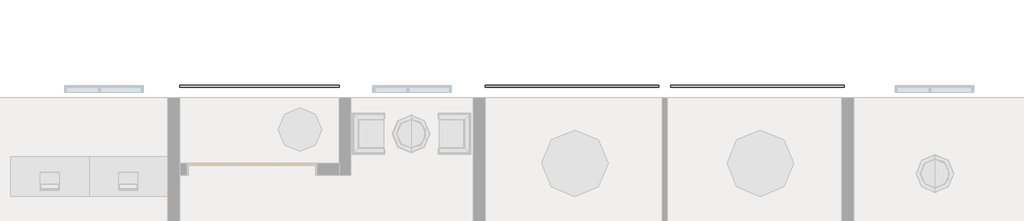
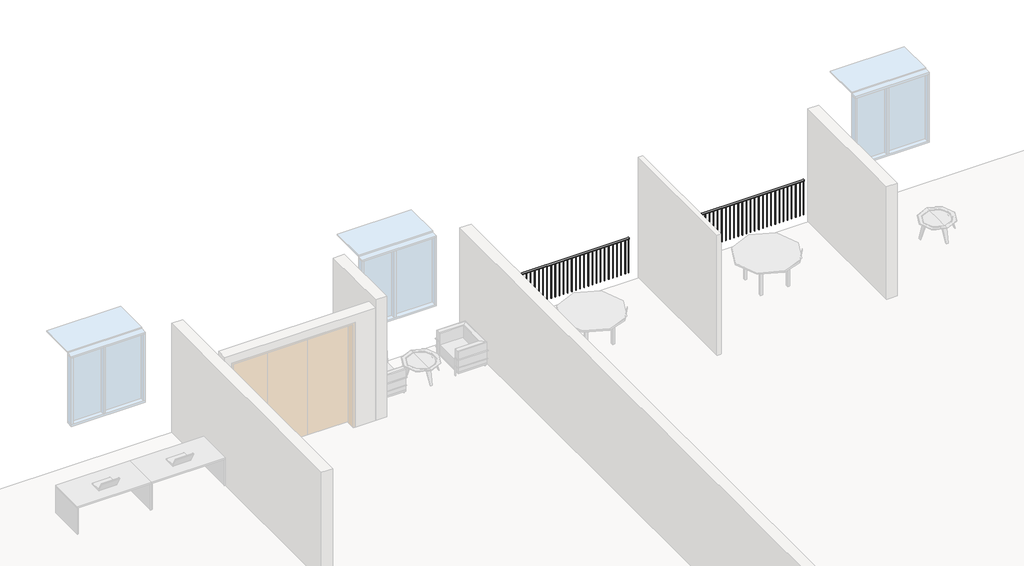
# One storey, part 3 of 5: 3 railings.
"""IFC4 building model written with IfcOpenShell, lengths in millimetres."""

from ifc_helpers import new_model, si_unit, point, frame, frame_2d, origin, place, context, project, spatial, polyline, circle_curve, trimmed, segment, composite_curve, outline, extrude, element, save

model = new_model("IFC4")

# Units and contexts
model_context = context("Model", 3, world=origin())
ifc_project = project(units=[si_unit("LENGTHUNIT", "METRE", prefix="MILLI")], contexts=[model_context])

# Site, building, storey
site = spatial("IfcSite", under=ifc_project)
building = spatial("IfcBuilding", under=site)
storey = spatial("IfcBuildingStorey", under=building, Name="2階", Elevation=33000.0)

# Railings
placement = place(None, origin())
element("IfcRailing", 1, ObjectType="900mm", at=placement, inside=storey, context=model_context, shape_type="SweptSolid", body=[
    extrude(outline(composite_curve([segment(trimmed(circle_curve(frame_2d((18700.0, 33880.0)), 20.0), [point((18680.0, 33880.0))], [point((18720.0, 33880.0))], False, "CARTESIAN"), True, "CONTINUOUS"), segment(trimmed(circle_curve(frame_2d((18700.0, 33880.0)), 20.0), [point((18720.0, 33880.0))], [point((18680.0, 33880.0))], False, "CARTESIAN"), True, "CONTINUOUS")], self_intersect=False)), frame((20364.6062665, 0.0, 0.0), z_axis=(1.0, 0.0, 0.0), x_axis=(0.0, 1.0, 0.0)), (0.0, 0.0, 1.0), 3988.7971578),
    extrude(outline(polyline([(24259.6062665, 18695.0), (24259.6062665, 18705.0), (24269.6062665, 18705.0), (24269.6062665, 18695.0), (24259.6062665, 18695.0)])), frame((0.0, 0.0, 33000.0), z_axis=(0.0, 0.0, 1.0), x_axis=(1.0, 0.0, 0.0)), (0.0, 0.0, 1.0), 860.0),
    extrude(outline(polyline([(24159.6062665, 18695.0), (24159.6062665, 18705.0), (24169.6062665, 18705.0), (24169.6062665, 18695.0), (24159.6062665, 18695.0)])), frame((0.0, 0.0, 33000.0), z_axis=(0.0, 0.0, 1.0), x_axis=(1.0, 0.0, 0.0)), (0.0, 0.0, 1.0), 860.0),
    extrude(outline(polyline([(24059.6062665, 18695.0), (24059.6062665, 18705.0), (24069.6062665, 18705.0), (24069.6062665, 18695.0), (24059.6062665, 18695.0)])), frame((0.0, 0.0, 33000.0), z_axis=(0.0, 0.0, 1.0), x_axis=(1.0, 0.0, 0.0)), (0.0, 0.0, 1.0), 860.0),
    extrude(outline(polyline([(23959.6062665, 18695.0), (23959.6062665, 18705.0), (23969.6062665, 18705.0), (23969.6062665, 18695.0), (23959.6062665, 18695.0)])), frame((0.0, 0.0, 33000.0), z_axis=(0.0, 0.0, 1.0), x_axis=(1.0, 0.0, 0.0)), (0.0, 0.0, 1.0), 860.0),
    extrude(outline(polyline([(23859.6062665, 18695.0), (23859.6062665, 18705.0), (23869.6062665, 18705.0), (23869.6062665, 18695.0), (23859.6062665, 18695.0)])), frame((0.0, 0.0, 33000.0), z_axis=(0.0, 0.0, 1.0), x_axis=(1.0, 0.0, 0.0)), (0.0, 0.0, 1.0), 860.0),
    extrude(outline(polyline([(23759.6062665, 18695.0), (23759.6062665, 18705.0), (23769.6062665, 18705.0), (23769.6062665, 18695.0), (23759.6062665, 18695.0)])), frame((0.0, 0.0, 33000.0), z_axis=(0.0, 0.0, 1.0), x_axis=(1.0, 0.0, 0.0)), (0.0, 0.0, 1.0), 860.0),
    extrude(outline(polyline([(23659.6062665, 18695.0), (23659.6062665, 18705.0), (23669.6062665, 18705.0), (23669.6062665, 18695.0), (23659.6062665, 18695.0)])), frame((0.0, 0.0, 33000.0), z_axis=(0.0, 0.0, 1.0), x_axis=(1.0, 0.0, 0.0)), (0.0, 0.0, 1.0), 860.0),
    extrude(outline(polyline([(23559.6062665, 18695.0), (23559.6062665, 18705.0), (23569.6062665, 18705.0), (23569.6062665, 18695.0), (23559.6062665, 18695.0)])), frame((0.0, 0.0, 33000.0), z_axis=(0.0, 0.0, 1.0), x_axis=(1.0, 0.0, 0.0)), (0.0, 0.0, 1.0), 860.0),
    extrude(outline(polyline([(23459.6062665, 18695.0), (23459.6062665, 18705.0), (23469.6062665, 18705.0), (23469.6062665, 18695.0), (23459.6062665, 18695.0)])), frame((0.0, 0.0, 33000.0), z_axis=(0.0, 0.0, 1.0), x_axis=(1.0, 0.0, 0.0)), (0.0, 0.0, 1.0), 860.0),
    extrude(outline(polyline([(23359.6062665, 18695.0), (23359.6062665, 18705.0), (23369.6062665, 18705.0), (23369.6062665, 18695.0), (23359.6062665, 18695.0)])), frame((0.0, 0.0, 33000.0), z_axis=(0.0, 0.0, 1.0), x_axis=(1.0, 0.0, 0.0)), (0.0, 0.0, 1.0), 860.0),
    extrude(outline(polyline([(23259.6062665, 18695.0), (23259.6062665, 18705.0), (23269.6062665, 18705.0), (23269.6062665, 18695.0), (23259.6062665, 18695.0)])), frame((0.0, 0.0, 33000.0), z_axis=(0.0, 0.0, 1.0), x_axis=(1.0, 0.0, 0.0)), (0.0, 0.0, 1.0), 860.0),
    extrude(outline(polyline([(23159.6062665, 18695.0), (23159.6062665, 18705.0), (23169.6062665, 18705.0), (23169.6062665, 18695.0), (23159.6062665, 18695.0)])), frame((0.0, 0.0, 33000.0), z_axis=(0.0, 0.0, 1.0), x_axis=(1.0, 0.0, 0.0)), (0.0, 0.0, 1.0), 860.0),
    extrude(outline(polyline([(23059.6062665, 18695.0), (23059.6062665, 18705.0), (23069.6062665, 18705.0), (23069.6062665, 18695.0), (23059.6062665, 18695.0)])), frame((0.0, 0.0, 33000.0), z_axis=(0.0, 0.0, 1.0), x_axis=(1.0, 0.0, 0.0)), (0.0, 0.0, 1.0), 860.0),
    extrude(outline(polyline([(22959.6062665, 18695.0), (22959.6062665, 18705.0), (22969.6062665, 18705.0), (22969.6062665, 18695.0), (22959.6062665, 18695.0)])), frame((0.0, 0.0, 33000.0), z_axis=(0.0, 0.0, 1.0), x_axis=(1.0, 0.0, 0.0)), (0.0, 0.0, 1.0), 860.0),
    extrude(outline(polyline([(22859.6062665, 18695.0), (22859.6062665, 18705.0), (22869.6062665, 18705.0), (22869.6062665, 18695.0), (22859.6062665, 18695.0)])), frame((0.0, 0.0, 33000.0), z_axis=(0.0, 0.0, 1.0), x_axis=(1.0, 0.0, 0.0)), (0.0, 0.0, 1.0), 860.0),
    extrude(outline(polyline([(22759.6062665, 18695.0), (22759.6062665, 18705.0), (22769.6062665, 18705.0), (22769.6062665, 18695.0), (22759.6062665, 18695.0)])), frame((0.0, 0.0, 33000.0), z_axis=(0.0, 0.0, 1.0), x_axis=(1.0, 0.0, 0.0)), (0.0, 0.0, 1.0), 860.0),
    extrude(outline(polyline([(22659.6062665, 18695.0), (22659.6062665, 18705.0), (22669.6062665, 18705.0), (22669.6062665, 18695.0), (22659.6062665, 18695.0)])), frame((0.0, 0.0, 33000.0), z_axis=(0.0, 0.0, 1.0), x_axis=(1.0, 0.0, 0.0)), (0.0, 0.0, 1.0), 860.0),
    extrude(outline(polyline([(22559.6062665, 18695.0), (22559.6062665, 18705.0), (22569.6062665, 18705.0), (22569.6062665, 18695.0), (22559.6062665, 18695.0)])), frame((0.0, 0.0, 33000.0), z_axis=(0.0, 0.0, 1.0), x_axis=(1.0, 0.0, 0.0)), (0.0, 0.0, 1.0), 860.0),
    extrude(outline(polyline([(22459.6062665, 18695.0), (22459.6062665, 18705.0), (22469.6062665, 18705.0), (22469.6062665, 18695.0), (22459.6062665, 18695.0)])), frame((0.0, 0.0, 33000.0), z_axis=(0.0, 0.0, 1.0), x_axis=(1.0, 0.0, 0.0)), (0.0, 0.0, 1.0), 860.0),
    extrude(outline(polyline([(22359.6062665, 18695.0), (22359.6062665, 18705.0), (22369.6062665, 18705.0), (22369.6062665, 18695.0), (22359.6062665, 18695.0)])), frame((0.0, 0.0, 33000.0), z_axis=(0.0, 0.0, 1.0), x_axis=(1.0, 0.0, 0.0)), (0.0, 0.0, 1.0), 860.0),
    extrude(outline(polyline([(22259.6062665, 18695.0), (22259.6062665, 18705.0), (22269.6062665, 18705.0), (22269.6062665, 18695.0), (22259.6062665, 18695.0)])), frame((0.0, 0.0, 33000.0), z_axis=(0.0, 0.0, 1.0), x_axis=(1.0, 0.0, 0.0)), (0.0, 0.0, 1.0), 860.0),
    extrude(outline(polyline([(22159.6062665, 18695.0), (22159.6062665, 18705.0), (22169.6062665, 18705.0), (22169.6062665, 18695.0), (22159.6062665, 18695.0)])), frame((0.0, 0.0, 33000.0), z_axis=(0.0, 0.0, 1.0), x_axis=(1.0, 0.0, 0.0)), (0.0, 0.0, 1.0), 860.0),
    extrude(outline(polyline([(22059.6062665, 18695.0), (22059.6062665, 18705.0), (22069.6062665, 18705.0), (22069.6062665, 18695.0), (22059.6062665, 18695.0)])), frame((0.0, 0.0, 33000.0), z_axis=(0.0, 0.0, 1.0), x_axis=(1.0, 0.0, 0.0)), (0.0, 0.0, 1.0), 860.0),
    extrude(outline(polyline([(21959.6062665, 18695.0), (21959.6062665, 18705.0), (21969.6062665, 18705.0), (21969.6062665, 18695.0), (21959.6062665, 18695.0)])), frame((0.0, 0.0, 33000.0), z_axis=(0.0, 0.0, 1.0), x_axis=(1.0, 0.0, 0.0)), (0.0, 0.0, 1.0), 860.0),
    extrude(outline(polyline([(21859.6062665, 18695.0), (21859.6062665, 18705.0), (21869.6062665, 18705.0), (21869.6062665, 18695.0), (21859.6062665, 18695.0)])), frame((0.0, 0.0, 33000.0), z_axis=(0.0, 0.0, 1.0), x_axis=(1.0, 0.0, 0.0)), (0.0, 0.0, 1.0), 860.0),
    extrude(outline(polyline([(21759.6062665, 18695.0), (21759.6062665, 18705.0), (21769.6062665, 18705.0), (21769.6062665, 18695.0), (21759.6062665, 18695.0)])), frame((0.0, 0.0, 33000.0), z_axis=(0.0, 0.0, 1.0), x_axis=(1.0, 0.0, 0.0)), (0.0, 0.0, 1.0), 860.0),
    extrude(outline(polyline([(21659.6062665, 18695.0), (21659.6062665, 18705.0), (21669.6062665, 18705.0), (21669.6062665, 18695.0), (21659.6062665, 18695.0)])), frame((0.0, 0.0, 33000.0), z_axis=(0.0, 0.0, 1.0), x_axis=(1.0, 0.0, 0.0)), (0.0, 0.0, 1.0), 860.0),
    extrude(outline(polyline([(21559.6062665, 18695.0), (21559.6062665, 18705.0), (21569.6062665, 18705.0), (21569.6062665, 18695.0), (21559.6062665, 18695.0)])), frame((0.0, 0.0, 33000.0), z_axis=(0.0, 0.0, 1.0), x_axis=(1.0, 0.0, 0.0)), (0.0, 0.0, 1.0), 860.0),
    extrude(outline(polyline([(21459.6062665, 18695.0), (21459.6062665, 18705.0), (21469.6062665, 18705.0), (21469.6062665, 18695.0), (21459.6062665, 18695.0)])), frame((0.0, 0.0, 33000.0), z_axis=(0.0, 0.0, 1.0), x_axis=(1.0, 0.0, 0.0)), (0.0, 0.0, 1.0), 860.0),
    extrude(outline(polyline([(21359.6062665, 18695.0), (21359.6062665, 18705.0), (21369.6062665, 18705.0), (21369.6062665, 18695.0), (21359.6062665, 18695.0)])), frame((0.0, 0.0, 33000.0), z_axis=(0.0, 0.0, 1.0), x_axis=(1.0, 0.0, 0.0)), (0.0, 0.0, 1.0), 860.0),
    extrude(outline(polyline([(21259.6062665, 18695.0), (21259.6062665, 18705.0), (21269.6062665, 18705.0), (21269.6062665, 18695.0), (21259.6062665, 18695.0)])), frame((0.0, 0.0, 33000.0), z_axis=(0.0, 0.0, 1.0), x_axis=(1.0, 0.0, 0.0)), (0.0, 0.0, 1.0), 860.0),
    extrude(outline(polyline([(21159.6062665, 18695.0), (21159.6062665, 18705.0), (21169.6062665, 18705.0), (21169.6062665, 18695.0), (21159.6062665, 18695.0)])), frame((0.0, 0.0, 33000.0), z_axis=(0.0, 0.0, 1.0), x_axis=(1.0, 0.0, 0.0)), (0.0, 0.0, 1.0), 860.0),
    extrude(outline(polyline([(21059.6062665, 18695.0), (21059.6062665, 18705.0), (21069.6062665, 18705.0), (21069.6062665, 18695.0), (21059.6062665, 18695.0)])), frame((0.0, 0.0, 33000.0), z_axis=(0.0, 0.0, 1.0), x_axis=(1.0, 0.0, 0.0)), (0.0, 0.0, 1.0), 860.0),
    extrude(outline(polyline([(20959.6062665, 18695.0), (20959.6062665, 18705.0), (20969.6062665, 18705.0), (20969.6062665, 18695.0), (20959.6062665, 18695.0)])), frame((0.0, 0.0, 33000.0), z_axis=(0.0, 0.0, 1.0), x_axis=(1.0, 0.0, 0.0)), (0.0, 0.0, 1.0), 860.0),
    extrude(outline(polyline([(20859.6062665, 18695.0), (20859.6062665, 18705.0), (20869.6062665, 18705.0), (20869.6062665, 18695.0), (20859.6062665, 18695.0)])), frame((0.0, 0.0, 33000.0), z_axis=(0.0, 0.0, 1.0), x_axis=(1.0, 0.0, 0.0)), (0.0, 0.0, 1.0), 860.0),
    extrude(outline(polyline([(20759.6062665, 18695.0), (20759.6062665, 18705.0), (20769.6062665, 18705.0), (20769.6062665, 18695.0), (20759.6062665, 18695.0)])), frame((0.0, 0.0, 33000.0), z_axis=(0.0, 0.0, 1.0), x_axis=(1.0, 0.0, 0.0)), (0.0, 0.0, 1.0), 860.0),
    extrude(outline(polyline([(20659.6062665, 18695.0), (20659.6062665, 18705.0), (20669.6062665, 18705.0), (20669.6062665, 18695.0), (20659.6062665, 18695.0)])), frame((0.0, 0.0, 33000.0), z_axis=(0.0, 0.0, 1.0), x_axis=(1.0, 0.0, 0.0)), (0.0, 0.0, 1.0), 860.0),
    extrude(outline(polyline([(20559.6062665, 18695.0), (20559.6062665, 18705.0), (20569.6062665, 18705.0), (20569.6062665, 18695.0), (20559.6062665, 18695.0)])), frame((0.0, 0.0, 33000.0), z_axis=(0.0, 0.0, 1.0), x_axis=(1.0, 0.0, 0.0)), (0.0, 0.0, 1.0), 860.0),
    extrude(outline(polyline([(20459.6062665, 18695.0), (20459.6062665, 18705.0), (20469.6062665, 18705.0), (20469.6062665, 18695.0), (20459.6062665, 18695.0)])), frame((0.0, 0.0, 33000.0), z_axis=(0.0, 0.0, 1.0), x_axis=(1.0, 0.0, 0.0)), (0.0, 0.0, 1.0), 860.0),
    extrude(outline(polyline([(24338.4034243, 18695.0), (24338.4034243, 18705.0), (24348.4034243, 18705.0), (24348.4034243, 18695.0), (24338.4034243, 18695.0)])), frame((0.0, 0.0, 33000.0), z_axis=(0.0, 0.0, 1.0), x_axis=(1.0, 0.0, 0.0)), (0.0, 0.0, 1.0), 860.0),
    extrude(outline(polyline([(20369.6062665, 18695.0), (20369.6062665, 18705.0), (20379.6062665, 18705.0), (20379.6062665, 18695.0), (20369.6062665, 18695.0)])), frame((0.0, 0.0, 33000.0), z_axis=(0.0, 0.0, 1.0), x_axis=(1.0, 0.0, 0.0)), (0.0, 0.0, 1.0), 860.0),
])
element("IfcRailing", 2, ObjectType="900mm", at=placement, inside=storey, context=model_context, shape_type="SweptSolid", body=[
    extrude(outline(composite_curve([segment(trimmed(circle_curve(frame_2d((18700.0, 33880.0)), 20.0), [point((18720.0, 33880.0))], [point((18680.0, 33880.0))], False, "CARTESIAN"), True, "CONTINUOUS"), segment(trimmed(circle_curve(frame_2d((18700.0, 33880.0)), 20.0), [point((18680.0, 33880.0))], [point((18720.0, 33880.0))], False, "CARTESIAN"), True, "CONTINUOUS")], self_intersect=False)), frame((24623.4034243, 0.0, 0.0), z_axis=(1.0, 0.0, 0.0), x_axis=(0.0, 1.0, 0.0)), (0.0, 0.0, 1.0), 3988.7971578),
    extrude(outline(polyline([(24717.200582, 18695.0), (24707.200582, 18695.0), (24707.200582, 18705.0), (24717.200582, 18705.0), (24717.200582, 18695.0)])), frame((0.0, 0.0, 33000.0), z_axis=(0.0, 0.0, 1.0), x_axis=(1.0, 0.0, 0.0)), (0.0, 0.0, 1.0), 860.0),
    extrude(outline(polyline([(24817.200582, 18695.0), (24807.200582, 18695.0), (24807.200582, 18705.0), (24817.200582, 18705.0), (24817.200582, 18695.0)])), frame((0.0, 0.0, 33000.0), z_axis=(0.0, 0.0, 1.0), x_axis=(1.0, 0.0, 0.0)), (0.0, 0.0, 1.0), 860.0),
    extrude(outline(polyline([(24917.200582, 18695.0), (24907.200582, 18695.0), (24907.200582, 18705.0), (24917.200582, 18705.0), (24917.200582, 18695.0)])), frame((0.0, 0.0, 33000.0), z_axis=(0.0, 0.0, 1.0), x_axis=(1.0, 0.0, 0.0)), (0.0, 0.0, 1.0), 860.0),
    extrude(outline(polyline([(25017.200582, 18695.0), (25007.200582, 18695.0), (25007.200582, 18705.0), (25017.200582, 18705.0), (25017.200582, 18695.0)])), frame((0.0, 0.0, 33000.0), z_axis=(0.0, 0.0, 1.0), x_axis=(1.0, 0.0, 0.0)), (0.0, 0.0, 1.0), 860.0),
    extrude(outline(polyline([(25117.200582, 18695.0), (25107.200582, 18695.0), (25107.200582, 18705.0), (25117.200582, 18705.0), (25117.200582, 18695.0)])), frame((0.0, 0.0, 33000.0), z_axis=(0.0, 0.0, 1.0), x_axis=(1.0, 0.0, 0.0)), (0.0, 0.0, 1.0), 860.0),
    extrude(outline(polyline([(25217.200582, 18695.0), (25207.200582, 18695.0), (25207.200582, 18705.0), (25217.200582, 18705.0), (25217.200582, 18695.0)])), frame((0.0, 0.0, 33000.0), z_axis=(0.0, 0.0, 1.0), x_axis=(1.0, 0.0, 0.0)), (0.0, 0.0, 1.0), 860.0),
    extrude(outline(polyline([(25317.200582, 18695.0), (25307.200582, 18695.0), (25307.200582, 18705.0), (25317.200582, 18705.0), (25317.200582, 18695.0)])), frame((0.0, 0.0, 33000.0), z_axis=(0.0, 0.0, 1.0), x_axis=(1.0, 0.0, 0.0)), (0.0, 0.0, 1.0), 860.0),
    extrude(outline(polyline([(25417.200582, 18695.0), (25407.200582, 18695.0), (25407.200582, 18705.0), (25417.200582, 18705.0), (25417.200582, 18695.0)])), frame((0.0, 0.0, 33000.0), z_axis=(0.0, 0.0, 1.0), x_axis=(1.0, 0.0, 0.0)), (0.0, 0.0, 1.0), 860.0),
    extrude(outline(polyline([(25517.200582, 18695.0), (25507.200582, 18695.0), (25507.200582, 18705.0), (25517.200582, 18705.0), (25517.200582, 18695.0)])), frame((0.0, 0.0, 33000.0), z_axis=(0.0, 0.0, 1.0), x_axis=(1.0, 0.0, 0.0)), (0.0, 0.0, 1.0), 860.0),
    extrude(outline(polyline([(25617.200582, 18695.0), (25607.200582, 18695.0), (25607.200582, 18705.0), (25617.200582, 18705.0), (25617.200582, 18695.0)])), frame((0.0, 0.0, 33000.0), z_axis=(0.0, 0.0, 1.0), x_axis=(1.0, 0.0, 0.0)), (0.0, 0.0, 1.0), 860.0),
    extrude(outline(polyline([(25717.200582, 18695.0), (25707.200582, 18695.0), (25707.200582, 18705.0), (25717.200582, 18705.0), (25717.200582, 18695.0)])), frame((0.0, 0.0, 33000.0), z_axis=(0.0, 0.0, 1.0), x_axis=(1.0, 0.0, 0.0)), (0.0, 0.0, 1.0), 860.0),
    extrude(outline(polyline([(25817.200582, 18695.0), (25807.200582, 18695.0), (25807.200582, 18705.0), (25817.200582, 18705.0), (25817.200582, 18695.0)])), frame((0.0, 0.0, 33000.0), z_axis=(0.0, 0.0, 1.0), x_axis=(1.0, 0.0, 0.0)), (0.0, 0.0, 1.0), 860.0),
    extrude(outline(polyline([(25917.200582, 18695.0), (25907.200582, 18695.0), (25907.200582, 18705.0), (25917.200582, 18705.0), (25917.200582, 18695.0)])), frame((0.0, 0.0, 33000.0), z_axis=(0.0, 0.0, 1.0), x_axis=(1.0, 0.0, 0.0)), (0.0, 0.0, 1.0), 860.0),
    extrude(outline(polyline([(26017.200582, 18695.0), (26007.200582, 18695.0), (26007.200582, 18705.0), (26017.200582, 18705.0), (26017.200582, 18695.0)])), frame((0.0, 0.0, 33000.0), z_axis=(0.0, 0.0, 1.0), x_axis=(1.0, 0.0, 0.0)), (0.0, 0.0, 1.0), 860.0),
    extrude(outline(polyline([(26117.200582, 18695.0), (26107.200582, 18695.0), (26107.200582, 18705.0), (26117.200582, 18705.0), (26117.200582, 18695.0)])), frame((0.0, 0.0, 33000.0), z_axis=(0.0, 0.0, 1.0), x_axis=(1.0, 0.0, 0.0)), (0.0, 0.0, 1.0), 860.0),
    extrude(outline(polyline([(26217.200582, 18695.0), (26207.200582, 18695.0), (26207.200582, 18705.0), (26217.200582, 18705.0), (26217.200582, 18695.0)])), frame((0.0, 0.0, 33000.0), z_axis=(0.0, 0.0, 1.0), x_axis=(1.0, 0.0, 0.0)), (0.0, 0.0, 1.0), 860.0),
    extrude(outline(polyline([(26317.200582, 18695.0), (26307.200582, 18695.0), (26307.200582, 18705.0), (26317.200582, 18705.0), (26317.200582, 18695.0)])), frame((0.0, 0.0, 33000.0), z_axis=(0.0, 0.0, 1.0), x_axis=(1.0, 0.0, 0.0)), (0.0, 0.0, 1.0), 860.0),
    extrude(outline(polyline([(26417.200582, 18695.0), (26407.200582, 18695.0), (26407.200582, 18705.0), (26417.200582, 18705.0), (26417.200582, 18695.0)])), frame((0.0, 0.0, 33000.0), z_axis=(0.0, 0.0, 1.0), x_axis=(1.0, 0.0, 0.0)), (0.0, 0.0, 1.0), 860.0),
    extrude(outline(polyline([(26517.200582, 18695.0), (26507.200582, 18695.0), (26507.200582, 18705.0), (26517.200582, 18705.0), (26517.200582, 18695.0)])), frame((0.0, 0.0, 33000.0), z_axis=(0.0, 0.0, 1.0), x_axis=(1.0, 0.0, 0.0)), (0.0, 0.0, 1.0), 860.0),
    extrude(outline(polyline([(26617.200582, 18695.0), (26607.200582, 18695.0), (26607.200582, 18705.0), (26617.200582, 18705.0), (26617.200582, 18695.0)])), frame((0.0, 0.0, 33000.0), z_axis=(0.0, 0.0, 1.0), x_axis=(1.0, 0.0, 0.0)), (0.0, 0.0, 1.0), 860.0),
    extrude(outline(polyline([(26717.200582, 18695.0), (26707.200582, 18695.0), (26707.200582, 18705.0), (26717.200582, 18705.0), (26717.200582, 18695.0)])), frame((0.0, 0.0, 33000.0), z_axis=(0.0, 0.0, 1.0), x_axis=(1.0, 0.0, 0.0)), (0.0, 0.0, 1.0), 860.0),
    extrude(outline(polyline([(26817.200582, 18695.0), (26807.200582, 18695.0), (26807.200582, 18705.0), (26817.200582, 18705.0), (26817.200582, 18695.0)])), frame((0.0, 0.0, 33000.0), z_axis=(0.0, 0.0, 1.0), x_axis=(1.0, 0.0, 0.0)), (0.0, 0.0, 1.0), 860.0),
    extrude(outline(polyline([(26917.200582, 18695.0), (26907.200582, 18695.0), (26907.200582, 18705.0), (26917.200582, 18705.0), (26917.200582, 18695.0)])), frame((0.0, 0.0, 33000.0), z_axis=(0.0, 0.0, 1.0), x_axis=(1.0, 0.0, 0.0)), (0.0, 0.0, 1.0), 860.0),
    extrude(outline(polyline([(27017.200582, 18695.0), (27007.200582, 18695.0), (27007.200582, 18705.0), (27017.200582, 18705.0), (27017.200582, 18695.0)])), frame((0.0, 0.0, 33000.0), z_axis=(0.0, 0.0, 1.0), x_axis=(1.0, 0.0, 0.0)), (0.0, 0.0, 1.0), 860.0),
    extrude(outline(polyline([(27117.200582, 18695.0), (27107.200582, 18695.0), (27107.200582, 18705.0), (27117.200582, 18705.0), (27117.200582, 18695.0)])), frame((0.0, 0.0, 33000.0), z_axis=(0.0, 0.0, 1.0), x_axis=(1.0, 0.0, 0.0)), (0.0, 0.0, 1.0), 860.0),
    extrude(outline(polyline([(27217.200582, 18695.0), (27207.200582, 18695.0), (27207.200582, 18705.0), (27217.200582, 18705.0), (27217.200582, 18695.0)])), frame((0.0, 0.0, 33000.0), z_axis=(0.0, 0.0, 1.0), x_axis=(1.0, 0.0, 0.0)), (0.0, 0.0, 1.0), 860.0),
    extrude(outline(polyline([(27317.200582, 18695.0), (27307.200582, 18695.0), (27307.200582, 18705.0), (27317.200582, 18705.0), (27317.200582, 18695.0)])), frame((0.0, 0.0, 33000.0), z_axis=(0.0, 0.0, 1.0), x_axis=(1.0, 0.0, 0.0)), (0.0, 0.0, 1.0), 860.0),
    extrude(outline(polyline([(27417.200582, 18695.0), (27407.200582, 18695.0), (27407.200582, 18705.0), (27417.200582, 18705.0), (27417.200582, 18695.0)])), frame((0.0, 0.0, 33000.0), z_axis=(0.0, 0.0, 1.0), x_axis=(1.0, 0.0, 0.0)), (0.0, 0.0, 1.0), 860.0),
    extrude(outline(polyline([(27517.200582, 18695.0), (27507.200582, 18695.0), (27507.200582, 18705.0), (27517.200582, 18705.0), (27517.200582, 18695.0)])), frame((0.0, 0.0, 33000.0), z_axis=(0.0, 0.0, 1.0), x_axis=(1.0, 0.0, 0.0)), (0.0, 0.0, 1.0), 860.0),
    extrude(outline(polyline([(27617.200582, 18695.0), (27607.200582, 18695.0), (27607.200582, 18705.0), (27617.200582, 18705.0), (27617.200582, 18695.0)])), frame((0.0, 0.0, 33000.0), z_axis=(0.0, 0.0, 1.0), x_axis=(1.0, 0.0, 0.0)), (0.0, 0.0, 1.0), 860.0),
    extrude(outline(polyline([(27717.200582, 18695.0), (27707.200582, 18695.0), (27707.200582, 18705.0), (27717.200582, 18705.0), (27717.200582, 18695.0)])), frame((0.0, 0.0, 33000.0), z_axis=(0.0, 0.0, 1.0), x_axis=(1.0, 0.0, 0.0)), (0.0, 0.0, 1.0), 860.0),
    extrude(outline(polyline([(27817.200582, 18695.0), (27807.200582, 18695.0), (27807.200582, 18705.0), (27817.200582, 18705.0), (27817.200582, 18695.0)])), frame((0.0, 0.0, 33000.0), z_axis=(0.0, 0.0, 1.0), x_axis=(1.0, 0.0, 0.0)), (0.0, 0.0, 1.0), 860.0),
    extrude(outline(polyline([(27917.200582, 18695.0), (27907.200582, 18695.0), (27907.200582, 18705.0), (27917.200582, 18705.0), (27917.200582, 18695.0)])), frame((0.0, 0.0, 33000.0), z_axis=(0.0, 0.0, 1.0), x_axis=(1.0, 0.0, 0.0)), (0.0, 0.0, 1.0), 860.0),
    extrude(outline(polyline([(28017.200582, 18695.0), (28007.200582, 18695.0), (28007.200582, 18705.0), (28017.200582, 18705.0), (28017.200582, 18695.0)])), frame((0.0, 0.0, 33000.0), z_axis=(0.0, 0.0, 1.0), x_axis=(1.0, 0.0, 0.0)), (0.0, 0.0, 1.0), 860.0),
    extrude(outline(polyline([(28117.200582, 18695.0), (28107.200582, 18695.0), (28107.200582, 18705.0), (28117.200582, 18705.0), (28117.200582, 18695.0)])), frame((0.0, 0.0, 33000.0), z_axis=(0.0, 0.0, 1.0), x_axis=(1.0, 0.0, 0.0)), (0.0, 0.0, 1.0), 860.0),
    extrude(outline(polyline([(28217.200582, 18695.0), (28207.200582, 18695.0), (28207.200582, 18705.0), (28217.200582, 18705.0), (28217.200582, 18695.0)])), frame((0.0, 0.0, 33000.0), z_axis=(0.0, 0.0, 1.0), x_axis=(1.0, 0.0, 0.0)), (0.0, 0.0, 1.0), 860.0),
    extrude(outline(polyline([(28317.200582, 18695.0), (28307.200582, 18695.0), (28307.200582, 18705.0), (28317.200582, 18705.0), (28317.200582, 18695.0)])), frame((0.0, 0.0, 33000.0), z_axis=(0.0, 0.0, 1.0), x_axis=(1.0, 0.0, 0.0)), (0.0, 0.0, 1.0), 860.0),
    extrude(outline(polyline([(28417.200582, 18695.0), (28407.200582, 18695.0), (28407.200582, 18705.0), (28417.200582, 18705.0), (28417.200582, 18695.0)])), frame((0.0, 0.0, 33000.0), z_axis=(0.0, 0.0, 1.0), x_axis=(1.0, 0.0, 0.0)), (0.0, 0.0, 1.0), 860.0),
    extrude(outline(polyline([(28517.200582, 18695.0), (28507.200582, 18695.0), (28507.200582, 18705.0), (28517.200582, 18705.0), (28517.200582, 18695.0)])), frame((0.0, 0.0, 33000.0), z_axis=(0.0, 0.0, 1.0), x_axis=(1.0, 0.0, 0.0)), (0.0, 0.0, 1.0), 860.0),
    extrude(outline(polyline([(24638.4034243, 18695.0), (24628.4034243, 18695.0), (24628.4034243, 18705.0), (24638.4034243, 18705.0), (24638.4034243, 18695.0)])), frame((0.0, 0.0, 33000.0), z_axis=(0.0, 0.0, 1.0), x_axis=(1.0, 0.0, 0.0)), (0.0, 0.0, 1.0), 860.0),
    extrude(outline(polyline([(28607.200582, 18695.0), (28597.200582, 18695.0), (28597.200582, 18705.0), (28607.200582, 18705.0), (28607.200582, 18695.0)])), frame((0.0, 0.0, 33000.0), z_axis=(0.0, 0.0, 1.0), x_axis=(1.0, 0.0, 0.0)), (0.0, 0.0, 1.0), 860.0),
])
element("IfcRailing", 3, ObjectType="900mm", at=placement, inside=storey, context=model_context, shape_type="SweptSolid", body=[
    extrude(outline(composite_curve([segment(trimmed(circle_curve(frame_2d((18700.0, 33880.0)), 20.0), [point((18720.0, 33880.0))], [point((18680.0, 33880.0))], False, "CARTESIAN"), True, "CONTINUOUS"), segment(trimmed(circle_curve(frame_2d((18700.0, 33880.0)), 20.0), [point((18680.0, 33880.0))], [point((18720.0, 33880.0))], False, "CARTESIAN"), True, "CONTINUOUS")], self_intersect=False)), frame((13352.1904782, 0.0, 0.0), z_axis=(1.0, 0.0, 0.0), x_axis=(0.0, 1.0, 0.0)), (0.0, 0.0, 1.0), 3665.0),
    extrude(outline(polyline([(13422.1904782, 18695.0), (13412.1904782, 18695.0), (13412.1904782, 18705.0), (13422.1904782, 18705.0), (13422.1904782, 18695.0)])), frame((0.0, 0.0, 33000.0), z_axis=(0.0, 0.0, 1.0), x_axis=(1.0, 0.0, 0.0)), (0.0, 0.0, 1.0), 860.0),
    extrude(outline(polyline([(13522.1904782, 18695.0), (13512.1904782, 18695.0), (13512.1904782, 18705.0), (13522.1904782, 18705.0), (13522.1904782, 18695.0)])), frame((0.0, 0.0, 33000.0), z_axis=(0.0, 0.0, 1.0), x_axis=(1.0, 0.0, 0.0)), (0.0, 0.0, 1.0), 860.0),
    extrude(outline(polyline([(13622.1904782, 18695.0), (13612.1904782, 18695.0), (13612.1904782, 18705.0), (13622.1904782, 18705.0), (13622.1904782, 18695.0)])), frame((0.0, 0.0, 33000.0), z_axis=(0.0, 0.0, 1.0), x_axis=(1.0, 0.0, 0.0)), (0.0, 0.0, 1.0), 860.0),
    extrude(outline(polyline([(13722.1904782, 18695.0), (13712.1904782, 18695.0), (13712.1904782, 18705.0), (13722.1904782, 18705.0), (13722.1904782, 18695.0)])), frame((0.0, 0.0, 33000.0), z_axis=(0.0, 0.0, 1.0), x_axis=(1.0, 0.0, 0.0)), (0.0, 0.0, 1.0), 860.0),
    extrude(outline(polyline([(13822.1904782, 18695.0), (13812.1904782, 18695.0), (13812.1904782, 18705.0), (13822.1904782, 18705.0), (13822.1904782, 18695.0)])), frame((0.0, 0.0, 33000.0), z_axis=(0.0, 0.0, 1.0), x_axis=(1.0, 0.0, 0.0)), (0.0, 0.0, 1.0), 860.0),
    extrude(outline(polyline([(13922.1904782, 18695.0), (13912.1904782, 18695.0), (13912.1904782, 18705.0), (13922.1904782, 18705.0), (13922.1904782, 18695.0)])), frame((0.0, 0.0, 33000.0), z_axis=(0.0, 0.0, 1.0), x_axis=(1.0, 0.0, 0.0)), (0.0, 0.0, 1.0), 860.0),
    extrude(outline(polyline([(14022.1904782, 18695.0), (14012.1904782, 18695.0), (14012.1904782, 18705.0), (14022.1904782, 18705.0), (14022.1904782, 18695.0)])), frame((0.0, 0.0, 33000.0), z_axis=(0.0, 0.0, 1.0), x_axis=(1.0, 0.0, 0.0)), (0.0, 0.0, 1.0), 860.0),
    extrude(outline(polyline([(14122.1904782, 18695.0), (14112.1904782, 18695.0), (14112.1904782, 18705.0), (14122.1904782, 18705.0), (14122.1904782, 18695.0)])), frame((0.0, 0.0, 33000.0), z_axis=(0.0, 0.0, 1.0), x_axis=(1.0, 0.0, 0.0)), (0.0, 0.0, 1.0), 860.0),
    extrude(outline(polyline([(14222.1904782, 18695.0), (14212.1904782, 18695.0), (14212.1904782, 18705.0), (14222.1904782, 18705.0), (14222.1904782, 18695.0)])), frame((0.0, 0.0, 33000.0), z_axis=(0.0, 0.0, 1.0), x_axis=(1.0, 0.0, 0.0)), (0.0, 0.0, 1.0), 860.0),
    extrude(outline(polyline([(14322.1904782, 18695.0), (14312.1904782, 18695.0), (14312.1904782, 18705.0), (14322.1904782, 18705.0), (14322.1904782, 18695.0)])), frame((0.0, 0.0, 33000.0), z_axis=(0.0, 0.0, 1.0), x_axis=(1.0, 0.0, 0.0)), (0.0, 0.0, 1.0), 860.0),
    extrude(outline(polyline([(14422.1904782, 18695.0), (14412.1904782, 18695.0), (14412.1904782, 18705.0), (14422.1904782, 18705.0), (14422.1904782, 18695.0)])), frame((0.0, 0.0, 33000.0), z_axis=(0.0, 0.0, 1.0), x_axis=(1.0, 0.0, 0.0)), (0.0, 0.0, 1.0), 860.0),
    extrude(outline(polyline([(14522.1904782, 18695.0), (14512.1904782, 18695.0), (14512.1904782, 18705.0), (14522.1904782, 18705.0), (14522.1904782, 18695.0)])), frame((0.0, 0.0, 33000.0), z_axis=(0.0, 0.0, 1.0), x_axis=(1.0, 0.0, 0.0)), (0.0, 0.0, 1.0), 860.0),
    extrude(outline(polyline([(14622.1904782, 18695.0), (14612.1904782, 18695.0), (14612.1904782, 18705.0), (14622.1904782, 18705.0), (14622.1904782, 18695.0)])), frame((0.0, 0.0, 33000.0), z_axis=(0.0, 0.0, 1.0), x_axis=(1.0, 0.0, 0.0)), (0.0, 0.0, 1.0), 860.0),
    extrude(outline(polyline([(14722.1904782, 18695.0), (14712.1904782, 18695.0), (14712.1904782, 18705.0), (14722.1904782, 18705.0), (14722.1904782, 18695.0)])), frame((0.0, 0.0, 33000.0), z_axis=(0.0, 0.0, 1.0), x_axis=(1.0, 0.0, 0.0)), (0.0, 0.0, 1.0), 860.0),
    extrude(outline(polyline([(14822.1904782, 18695.0), (14812.1904782, 18695.0), (14812.1904782, 18705.0), (14822.1904782, 18705.0), (14822.1904782, 18695.0)])), frame((0.0, 0.0, 33000.0), z_axis=(0.0, 0.0, 1.0), x_axis=(1.0, 0.0, 0.0)), (0.0, 0.0, 1.0), 860.0),
    extrude(outline(polyline([(14922.1904782, 18695.0), (14912.1904782, 18695.0), (14912.1904782, 18705.0), (14922.1904782, 18705.0), (14922.1904782, 18695.0)])), frame((0.0, 0.0, 33000.0), z_axis=(0.0, 0.0, 1.0), x_axis=(1.0, 0.0, 0.0)), (0.0, 0.0, 1.0), 860.0),
    extrude(outline(polyline([(15022.1904782, 18695.0), (15012.1904782, 18695.0), (15012.1904782, 18705.0), (15022.1904782, 18705.0), (15022.1904782, 18695.0)])), frame((0.0, 0.0, 33000.0), z_axis=(0.0, 0.0, 1.0), x_axis=(1.0, 0.0, 0.0)), (0.0, 0.0, 1.0), 860.0),
    extrude(outline(polyline([(15122.1904782, 18695.0), (15112.1904782, 18695.0), (15112.1904782, 18705.0), (15122.1904782, 18705.0), (15122.1904782, 18695.0)])), frame((0.0, 0.0, 33000.0), z_axis=(0.0, 0.0, 1.0), x_axis=(1.0, 0.0, 0.0)), (0.0, 0.0, 1.0), 860.0),
    extrude(outline(polyline([(15222.1904782, 18695.0), (15212.1904782, 18695.0), (15212.1904782, 18705.0), (15222.1904782, 18705.0), (15222.1904782, 18695.0)])), frame((0.0, 0.0, 33000.0), z_axis=(0.0, 0.0, 1.0), x_axis=(1.0, 0.0, 0.0)), (0.0, 0.0, 1.0), 860.0),
    extrude(outline(polyline([(15322.1904782, 18695.0), (15312.1904782, 18695.0), (15312.1904782, 18705.0), (15322.1904782, 18705.0), (15322.1904782, 18695.0)])), frame((0.0, 0.0, 33000.0), z_axis=(0.0, 0.0, 1.0), x_axis=(1.0, 0.0, 0.0)), (0.0, 0.0, 1.0), 860.0),
    extrude(outline(polyline([(15422.1904782, 18695.0), (15412.1904782, 18695.0), (15412.1904782, 18705.0), (15422.1904782, 18705.0), (15422.1904782, 18695.0)])), frame((0.0, 0.0, 33000.0), z_axis=(0.0, 0.0, 1.0), x_axis=(1.0, 0.0, 0.0)), (0.0, 0.0, 1.0), 860.0),
    extrude(outline(polyline([(15522.1904782, 18695.0), (15512.1904782, 18695.0), (15512.1904782, 18705.0), (15522.1904782, 18705.0), (15522.1904782, 18695.0)])), frame((0.0, 0.0, 33000.0), z_axis=(0.0, 0.0, 1.0), x_axis=(1.0, 0.0, 0.0)), (0.0, 0.0, 1.0), 860.0),
    extrude(outline(polyline([(15622.1904782, 18695.0), (15612.1904782, 18695.0), (15612.1904782, 18705.0), (15622.1904782, 18705.0), (15622.1904782, 18695.0)])), frame((0.0, 0.0, 33000.0), z_axis=(0.0, 0.0, 1.0), x_axis=(1.0, 0.0, 0.0)), (0.0, 0.0, 1.0), 860.0),
    extrude(outline(polyline([(15722.1904782, 18695.0), (15712.1904782, 18695.0), (15712.1904782, 18705.0), (15722.1904782, 18705.0), (15722.1904782, 18695.0)])), frame((0.0, 0.0, 33000.0), z_axis=(0.0, 0.0, 1.0), x_axis=(1.0, 0.0, 0.0)), (0.0, 0.0, 1.0), 860.0),
    extrude(outline(polyline([(15822.1904782, 18695.0), (15812.1904782, 18695.0), (15812.1904782, 18705.0), (15822.1904782, 18705.0), (15822.1904782, 18695.0)])), frame((0.0, 0.0, 33000.0), z_axis=(0.0, 0.0, 1.0), x_axis=(1.0, 0.0, 0.0)), (0.0, 0.0, 1.0), 860.0),
    extrude(outline(polyline([(15922.1904782, 18695.0), (15912.1904782, 18695.0), (15912.1904782, 18705.0), (15922.1904782, 18705.0), (15922.1904782, 18695.0)])), frame((0.0, 0.0, 33000.0), z_axis=(0.0, 0.0, 1.0), x_axis=(1.0, 0.0, 0.0)), (0.0, 0.0, 1.0), 860.0),
    extrude(outline(polyline([(16022.1904782, 18695.0), (16012.1904782, 18695.0), (16012.1904782, 18705.0), (16022.1904782, 18705.0), (16022.1904782, 18695.0)])), frame((0.0, 0.0, 33000.0), z_axis=(0.0, 0.0, 1.0), x_axis=(1.0, 0.0, 0.0)), (0.0, 0.0, 1.0), 860.0),
    extrude(outline(polyline([(16122.1904782, 18695.0), (16112.1904782, 18695.0), (16112.1904782, 18705.0), (16122.1904782, 18705.0), (16122.1904782, 18695.0)])), frame((0.0, 0.0, 33000.0), z_axis=(0.0, 0.0, 1.0), x_axis=(1.0, 0.0, 0.0)), (0.0, 0.0, 1.0), 860.0),
    extrude(outline(polyline([(16222.1904782, 18695.0), (16212.1904782, 18695.0), (16212.1904782, 18705.0), (16222.1904782, 18705.0), (16222.1904782, 18695.0)])), frame((0.0, 0.0, 33000.0), z_axis=(0.0, 0.0, 1.0), x_axis=(1.0, 0.0, 0.0)), (0.0, 0.0, 1.0), 860.0),
    extrude(outline(polyline([(16322.1904782, 18695.0), (16312.1904782, 18695.0), (16312.1904782, 18705.0), (16322.1904782, 18705.0), (16322.1904782, 18695.0)])), frame((0.0, 0.0, 33000.0), z_axis=(0.0, 0.0, 1.0), x_axis=(1.0, 0.0, 0.0)), (0.0, 0.0, 1.0), 860.0),
    extrude(outline(polyline([(16422.1904782, 18695.0), (16412.1904782, 18695.0), (16412.1904782, 18705.0), (16422.1904782, 18705.0), (16422.1904782, 18695.0)])), frame((0.0, 0.0, 33000.0), z_axis=(0.0, 0.0, 1.0), x_axis=(1.0, 0.0, 0.0)), (0.0, 0.0, 1.0), 860.0),
    extrude(outline(polyline([(16522.1904782, 18695.0), (16512.1904782, 18695.0), (16512.1904782, 18705.0), (16522.1904782, 18705.0), (16522.1904782, 18695.0)])), frame((0.0, 0.0, 33000.0), z_axis=(0.0, 0.0, 1.0), x_axis=(1.0, 0.0, 0.0)), (0.0, 0.0, 1.0), 860.0),
    extrude(outline(polyline([(16622.1904782, 18695.0), (16612.1904782, 18695.0), (16612.1904782, 18705.0), (16622.1904782, 18705.0), (16622.1904782, 18695.0)])), frame((0.0, 0.0, 33000.0), z_axis=(0.0, 0.0, 1.0), x_axis=(1.0, 0.0, 0.0)), (0.0, 0.0, 1.0), 860.0),
    extrude(outline(polyline([(16722.1904782, 18695.0), (16712.1904782, 18695.0), (16712.1904782, 18705.0), (16722.1904782, 18705.0), (16722.1904782, 18695.0)])), frame((0.0, 0.0, 33000.0), z_axis=(0.0, 0.0, 1.0), x_axis=(1.0, 0.0, 0.0)), (0.0, 0.0, 1.0), 860.0),
    extrude(outline(polyline([(16822.1904782, 18695.0), (16812.1904782, 18695.0), (16812.1904782, 18705.0), (16822.1904782, 18705.0), (16822.1904782, 18695.0)])), frame((0.0, 0.0, 33000.0), z_axis=(0.0, 0.0, 1.0), x_axis=(1.0, 0.0, 0.0)), (0.0, 0.0, 1.0), 860.0),
    extrude(outline(polyline([(16922.1904782, 18695.0), (16912.1904782, 18695.0), (16912.1904782, 18705.0), (16922.1904782, 18705.0), (16922.1904782, 18695.0)])), frame((0.0, 0.0, 33000.0), z_axis=(0.0, 0.0, 1.0), x_axis=(1.0, 0.0, 0.0)), (0.0, 0.0, 1.0), 860.0),
    extrude(outline(polyline([(13367.1904782, 18695.0), (13357.1904782, 18695.0), (13357.1904782, 18705.0), (13367.1904782, 18705.0), (13367.1904782, 18695.0)])), frame((0.0, 0.0, 33000.0), z_axis=(0.0, 0.0, 1.0), x_axis=(1.0, 0.0, 0.0)), (0.0, 0.0, 1.0), 860.0),
    extrude(outline(polyline([(17012.1904782, 18695.0), (17002.1904782, 18695.0), (17002.1904782, 18705.0), (17012.1904782, 18705.0), (17012.1904782, 18695.0)])), frame((0.0, 0.0, 33000.0), z_axis=(0.0, 0.0, 1.0), x_axis=(1.0, 0.0, 0.0)), (0.0, 0.0, 1.0), 860.0),
])

save(model, "model.ifc")
